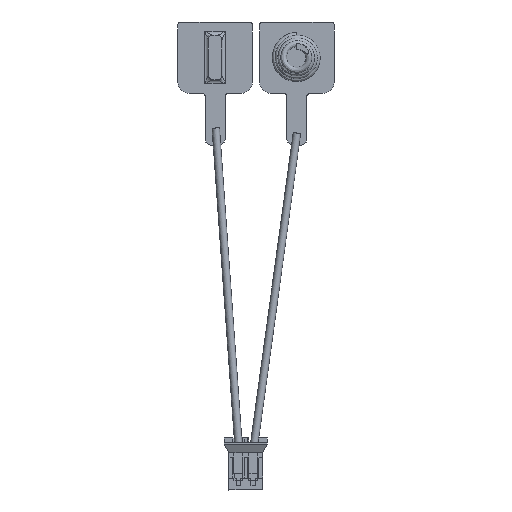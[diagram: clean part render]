
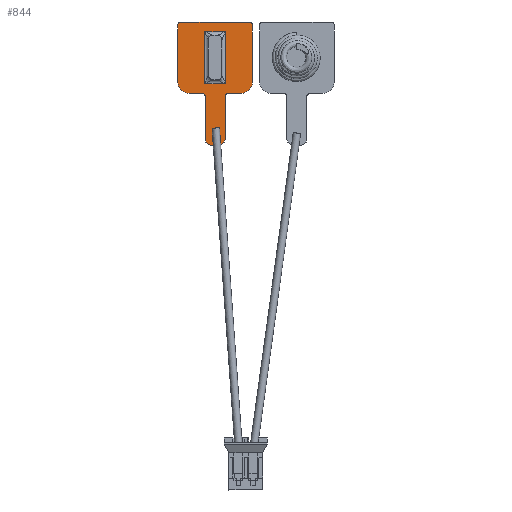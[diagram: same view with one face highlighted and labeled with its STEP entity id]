
A CAD part, front view. The second image highlights one B-rep face of the part: STEP entity #844.
In plain terms, the highlighted planar face has unit normal (0, -1, 0).
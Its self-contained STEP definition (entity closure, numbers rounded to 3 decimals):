
#355=CARTESIAN_POINT('',(-4.6,0.,4.4));
#356=DIRECTION('',(0.,-1.,0.));
#357=DIRECTION('',(0.,0.,1.));
#358=AXIS2_PLACEMENT_3D('',#355,#356,#357);
#360=DIRECTION('',(1.,0.,0.));
#361=VECTOR('',#360,9.2);
#362=CARTESIAN_POINT('',(-4.6,0.,4.8));
#363=LINE('',#362,#361);
#364=CARTESIAN_POINT('',(4.6,0.,4.4));
#365=DIRECTION('',(0.,-1.,0.));
#366=DIRECTION('',(1.,0.,0.));
#367=AXIS2_PLACEMENT_3D('',#364,#365,#366);
#369=DIRECTION('',(0.,0.,-1.));
#370=VECTOR('',#369,7.7);
#371=CARTESIAN_POINT('',(5.,0.,4.4));
#372=LINE('',#371,#370);
#373=CARTESIAN_POINT('',(3.5,0.,-3.3));
#374=DIRECTION('',(0.,-1.,0.));
#375=DIRECTION('',(0.,0.,-1.));
#376=AXIS2_PLACEMENT_3D('',#373,#374,#375);
#378=DIRECTION('',(-1.,0.,0.));
#379=VECTOR('',#378,1.75);
#380=CARTESIAN_POINT('',(3.5,0.,-4.8));
#381=LINE('',#380,#379);
#382=DIRECTION('',(0.,0.,-1.));
#383=VECTOR('',#382,5.7);
#384=CARTESIAN_POINT('',(1.35,0.,-5.2));
#385=LINE('',#384,#383);
#386=CARTESIAN_POINT('',(0.45,0.,-10.9));
#387=DIRECTION('',(0.,-1.,0.));
#388=DIRECTION('',(0.,0.,-1.));
#389=AXIS2_PLACEMENT_3D('',#386,#387,#388);
#391=DIRECTION('',(-1.,0.,0.));
#392=VECTOR('',#391,0.9);
#393=CARTESIAN_POINT('',(0.45,0.,-11.8));
#394=LINE('',#393,#392);
#395=CARTESIAN_POINT('',(-0.45,0.,-10.9));
#396=DIRECTION('',(0.,-1.,0.));
#397=DIRECTION('',(-1.,0.,0.));
#398=AXIS2_PLACEMENT_3D('',#395,#396,#397);
#400=DIRECTION('',(0.,0.,1.));
#401=VECTOR('',#400,5.7);
#402=CARTESIAN_POINT('',(-1.35,0.,-10.9));
#403=LINE('',#402,#401);
#404=DIRECTION('',(-1.,0.,0.));
#405=VECTOR('',#404,1.75);
#406=CARTESIAN_POINT('',(-1.75,0.,-4.8));
#407=LINE('',#406,#405);
#408=CARTESIAN_POINT('',(-3.5,0.,-3.3));
#409=DIRECTION('',(0.,-1.,0.));
#410=DIRECTION('',(-1.,0.,0.));
#411=AXIS2_PLACEMENT_3D('',#408,#409,#410);
#413=DIRECTION('',(0.,0.,1.));
#414=VECTOR('',#413,7.7);
#415=CARTESIAN_POINT('',(-5.,0.,-3.3));
#416=LINE('',#415,#414);
#417=DIRECTION('',(0.,0.,1.));
#418=VECTOR('',#417,7.);
#419=CARTESIAN_POINT('',(1.4,0.,-3.5));
#420=LINE('',#419,#418);
#421=DIRECTION('',(-1.,0.,0.));
#422=VECTOR('',#421,2.8);
#423=CARTESIAN_POINT('',(1.4,0.,3.5));
#424=LINE('',#423,#422);
#425=DIRECTION('',(0.,0.,-1.));
#426=VECTOR('',#425,7.);
#427=CARTESIAN_POINT('',(-1.4,0.,3.5));
#428=LINE('',#427,#426);
#429=DIRECTION('',(1.,0.,0.));
#430=VECTOR('',#429,2.8);
#431=CARTESIAN_POINT('',(-1.4,0.,-3.5));
#432=LINE('',#431,#430);
#449=CARTESIAN_POINT('',(-1.75,0.,-5.2));
#450=DIRECTION('',(0.,1.,0.));
#451=DIRECTION('',(0.,0.,1.));
#452=AXIS2_PLACEMENT_3D('',#449,#450,#451);
#483=CARTESIAN_POINT('',(1.75,0.,-5.2));
#484=DIRECTION('',(0.,1.,0.));
#485=DIRECTION('',(-1.,0.,0.));
#486=AXIS2_PLACEMENT_3D('',#483,#484,#485);
#589=CARTESIAN_POINT('',(1.4,0.,-3.5));
#661=CARTESIAN_POINT('',(-1.4,0.,-3.5));
#685=CARTESIAN_POINT('',(-1.4,0.,3.5));
#697=CARTESIAN_POINT('',(1.4,0.,3.5));
#711=CARTESIAN_POINT('',(-1.75,0.,-4.8));
#713=VERTEX_POINT('',#711);
#715=CARTESIAN_POINT('',(-1.35,0.,-5.2));
#717=VERTEX_POINT('',#715);
#719=CARTESIAN_POINT('',(1.35,0.,-5.2));
#721=VERTEX_POINT('',#719);
#723=CARTESIAN_POINT('',(1.75,0.,-4.8));
#725=VERTEX_POINT('',#723);
#727=CARTESIAN_POINT('',(-4.6,0.,4.8));
#728=CARTESIAN_POINT('',(-5.,0.,4.4));
#729=VERTEX_POINT('',#727);
#730=VERTEX_POINT('',#728);
#735=CARTESIAN_POINT('',(5.,0.,4.4));
#736=CARTESIAN_POINT('',(4.6,0.,4.8));
#737=VERTEX_POINT('',#735);
#738=VERTEX_POINT('',#736);
#743=CARTESIAN_POINT('',(-5.,0.,-3.3));
#744=CARTESIAN_POINT('',(-3.5,0.,-4.8));
#745=VERTEX_POINT('',#743);
#746=VERTEX_POINT('',#744);
#751=CARTESIAN_POINT('',(3.5,0.,-4.8));
#752=CARTESIAN_POINT('',(5.,0.,-3.3));
#753=VERTEX_POINT('',#751);
#754=VERTEX_POINT('',#752);
#759=CARTESIAN_POINT('',(0.45,0.,-11.8));
#760=CARTESIAN_POINT('',(1.35,0.,-10.9));
#761=VERTEX_POINT('',#759);
#762=VERTEX_POINT('',#760);
#767=CARTESIAN_POINT('',(-1.35,0.,-10.9));
#768=CARTESIAN_POINT('',(-0.45,0.,-11.8));
#769=VERTEX_POINT('',#767);
#770=VERTEX_POINT('',#768);
#779=VERTEX_POINT('',#589);
#784=VERTEX_POINT('',#661);
#789=VERTEX_POINT('',#697);
#794=VERTEX_POINT('',#685);
#795=CARTESIAN_POINT('',(0.,0.,0.));
#796=DIRECTION('',(0.,1.,0.));
#797=DIRECTION('',(1.,0.,0.));
#798=AXIS2_PLACEMENT_3D('',#795,#796,#797);
#799=PLANE('',#798);
#801=ORIENTED_EDGE('',*,*,#800,.F.);
#803=ORIENTED_EDGE('',*,*,#802,.T.);
#805=ORIENTED_EDGE('',*,*,#804,.F.);
#807=ORIENTED_EDGE('',*,*,#806,.T.);
#809=ORIENTED_EDGE('',*,*,#808,.F.);
#811=ORIENTED_EDGE('',*,*,#810,.T.);
#813=ORIENTED_EDGE('',*,*,#812,.F.);
#815=ORIENTED_EDGE('',*,*,#814,.T.);
#817=ORIENTED_EDGE('',*,*,#816,.F.);
#819=ORIENTED_EDGE('',*,*,#818,.T.);
#821=ORIENTED_EDGE('',*,*,#820,.F.);
#823=ORIENTED_EDGE('',*,*,#822,.T.);
#825=ORIENTED_EDGE('',*,*,#824,.F.);
#827=ORIENTED_EDGE('',*,*,#826,.T.);
#829=ORIENTED_EDGE('',*,*,#828,.F.);
#831=ORIENTED_EDGE('',*,*,#830,.T.);
#832=EDGE_LOOP('',(#801,#803,#805,#807,#809,#811,#813,#815,#817,#819,#821,#823,
#825,#827,#829,#831));
#833=FACE_OUTER_BOUND('',#832,.F.);
#835=ORIENTED_EDGE('',*,*,#834,.T.);
#837=ORIENTED_EDGE('',*,*,#836,.T.);
#839=ORIENTED_EDGE('',*,*,#838,.T.);
#841=ORIENTED_EDGE('',*,*,#840,.T.);
#842=EDGE_LOOP('',(#835,#837,#839,#841));
#843=FACE_BOUND('',#842,.F.);
#844=ADVANCED_FACE('',(#833,#843),#799,.F.);
#359=CIRCLE('',#358,0.4);
#368=CIRCLE('',#367,0.4);
#377=CIRCLE('',#376,1.5);
#390=CIRCLE('',#389,0.9);
#399=CIRCLE('',#398,0.9);
#412=CIRCLE('',#411,1.5);
#453=CIRCLE('',#452,0.4);
#487=CIRCLE('',#486,0.4);
#800=EDGE_CURVE('',#729,#730,#359,.T.);
#802=EDGE_CURVE('',#729,#738,#363,.T.);
#804=EDGE_CURVE('',#737,#738,#368,.T.);
#806=EDGE_CURVE('',#737,#754,#372,.T.);
#808=EDGE_CURVE('',#753,#754,#377,.T.);
#810=EDGE_CURVE('',#753,#725,#381,.T.);
#812=EDGE_CURVE('',#721,#725,#487,.T.);
#814=EDGE_CURVE('',#721,#762,#385,.T.);
#816=EDGE_CURVE('',#761,#762,#390,.T.);
#818=EDGE_CURVE('',#761,#770,#394,.T.);
#820=EDGE_CURVE('',#769,#770,#399,.T.);
#822=EDGE_CURVE('',#769,#717,#403,.T.);
#824=EDGE_CURVE('',#713,#717,#453,.T.);
#826=EDGE_CURVE('',#713,#746,#407,.T.);
#828=EDGE_CURVE('',#745,#746,#412,.T.);
#830=EDGE_CURVE('',#745,#730,#416,.T.);
#834=EDGE_CURVE('',#779,#789,#420,.T.);
#836=EDGE_CURVE('',#789,#794,#424,.T.);
#838=EDGE_CURVE('',#794,#784,#428,.T.);
#840=EDGE_CURVE('',#784,#779,#432,.T.);
